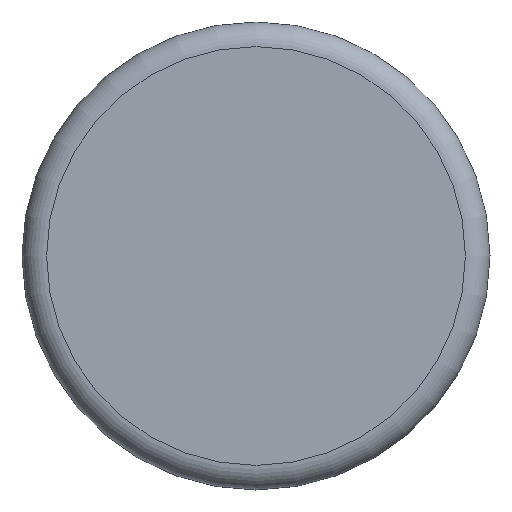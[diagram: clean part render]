
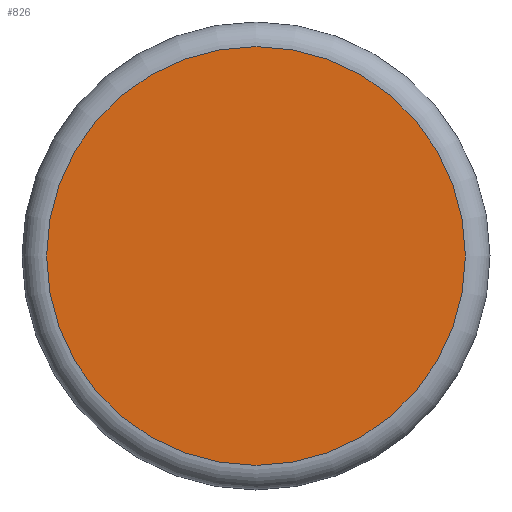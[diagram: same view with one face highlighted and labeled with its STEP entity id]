
A CAD part, front view. The second image highlights one B-rep face of the part: STEP entity #826.
In plain terms, the highlighted planar face has unit normal (0, -1, 0).
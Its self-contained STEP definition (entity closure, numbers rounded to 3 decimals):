
#55=PLANE('',#888);
#136=FACE_OUTER_BOUND('',#188,.T.);
#188=EDGE_LOOP('',(#768,#769));
#369=CIRCLE('',#889,17.);
#370=CIRCLE('',#890,17.);
#439=VERTEX_POINT('',#1786);
#440=VERTEX_POINT('',#1787);
#550=EDGE_CURVE('',#439,#440,#369,.T.);
#551=EDGE_CURVE('',#440,#439,#370,.T.);
#768=ORIENTED_EDGE('',*,*,#550,.F.);
#769=ORIENTED_EDGE('',*,*,#551,.F.);
#826=ADVANCED_FACE('',(#136),#55,.F.);
#888=AXIS2_PLACEMENT_3D('',#1785,#1059,#1060);
#889=AXIS2_PLACEMENT_3D('',#1788,#1061,#1062);
#890=AXIS2_PLACEMENT_3D('',#1789,#1063,#1064);
#1059=DIRECTION('center_axis',(0.,1.,0.));
#1060=DIRECTION('ref_axis',(0.,0.,1.));
#1061=DIRECTION('center_axis',(0.,1.,0.));
#1062=DIRECTION('ref_axis',(1.,0.,0.));
#1063=DIRECTION('center_axis',(0.,1.,0.));
#1064=DIRECTION('ref_axis',(1.,0.,0.));
#1785=CARTESIAN_POINT('Origin',(0.,0.,0.));
#1786=CARTESIAN_POINT('',(-17.,0.,0.));
#1787=CARTESIAN_POINT('',(0.,0.,-17.));
#1788=CARTESIAN_POINT('Origin',(0.,0.,0.));
#1789=CARTESIAN_POINT('Origin',(0.,0.,0.));
